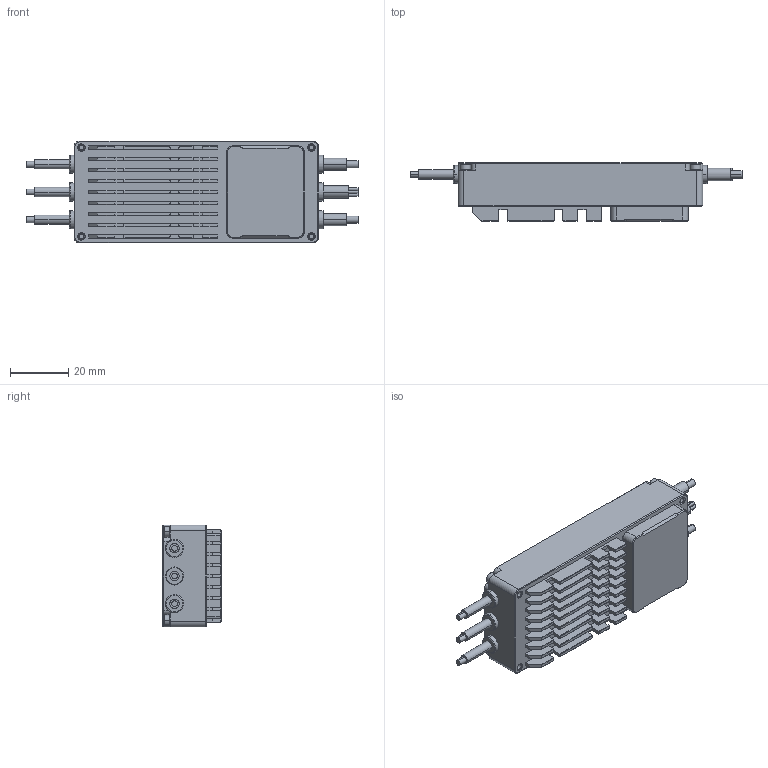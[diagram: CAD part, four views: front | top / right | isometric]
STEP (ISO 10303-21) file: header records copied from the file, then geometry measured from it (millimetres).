
FILE_DESCRIPTION((''),'2;1');
FILE_NAME('MK','2023-08-05T15:18:44',('22429'),(''),'CREO PARAMETRIC BY PTC INC, 2021063','CREO PARAMETRIC BY PTC INC, 2021063','');
FILE_SCHEMA(('CONFIG_CONTROL_DESIGN'));
Length unit declared in the file: millimetre
Products named in the file (1): MK
Bounding box: 114 x 20 x 35 mm (x, y, z)
Volume: 20537.7 mm3; surface area: 29067.5 mm2
Topology: 1 solids, 4 shells, 1159 faces, 2968 edges, 1889 vertices
Faces by surface type: plane 775, cylinder 292, cone 58, torus 34
Entity records: 35067 total; most frequent: CARTESIAN_POINT 6351, DIRECTION 5980, ORIENTED_EDGE 5936, EDGE_CURVE 2968, VECTOR 2194, LINE 2194, AXIS2_PLACEMENT_3D 1893, VERTEX_POINT 1889
